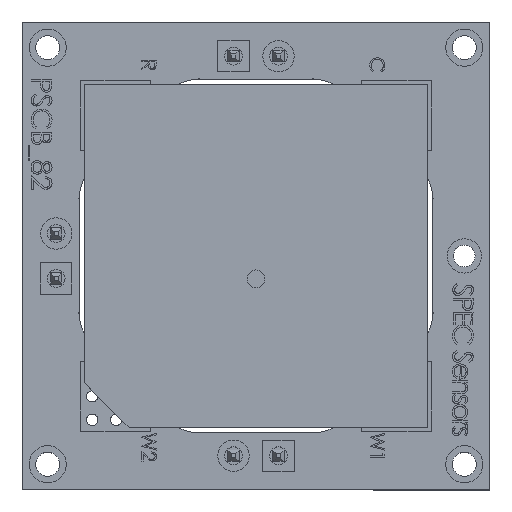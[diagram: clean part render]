
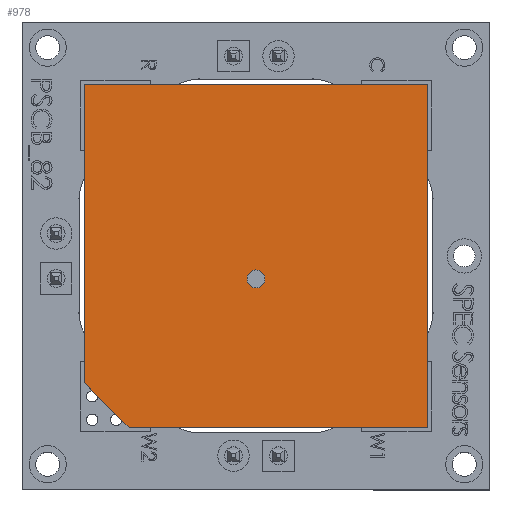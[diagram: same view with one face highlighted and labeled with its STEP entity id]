
A CAD part, top view. The second image highlights one B-rep face of the part: STEP entity #978.
In plain terms, the highlighted planar face has unit normal (0, 0, 1).
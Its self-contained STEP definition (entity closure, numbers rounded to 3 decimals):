
#947 = EDGE_CURVE ( 'NONE', #32696, #11058, #18214, .T. ) ;
#978 = ADVANCED_FACE ( 'NONE', ( #2992, #9971 ), #28093, .T. ) ;
#1032 = VECTOR ( 'NONE', #8167, 1000. ) ;
#1790 = VERTEX_POINT ( 'NONE', #3186 ) ;
#2397 = DIRECTION ( 'NONE',  ( 0.707, -0.707, 0. ) ) ;
#2561 = DIRECTION ( 'NONE',  ( 1., 0., 0. ) ) ;
#2824 = CARTESIAN_POINT ( 'NONE',  ( -18.012, 7.089, 1.369 ) ) ;
#2992 = FACE_BOUND ( 'NONE', #5793, .T. ) ;
#3186 = CARTESIAN_POINT ( 'NONE',  ( -4.712, 7.089, 1.369 ) ) ;
#3378 = CARTESIAN_POINT ( 'NONE',  ( -20.012, 22.389, 1.369 ) ) ;
#4208 = CARTESIAN_POINT ( 'NONE',  ( -20.012, 22.389, 1.369 ) ) ;
#5338 = CARTESIAN_POINT ( 'NONE',  ( -18.012, 7.089, 1.369 ) ) ;
#5408 = CARTESIAN_POINT ( 'NONE',  ( -20.012, 9.089, 1.369 ) ) ;
#5793 = EDGE_LOOP ( 'NONE', ( #30118 ) ) ;
#5950 = CARTESIAN_POINT ( 'NONE',  ( -12.362, 13.714, 1.369 ) ) ;
#6492 = AXIS2_PLACEMENT_3D ( 'NONE', #5950, #22561, #33194 ) ;
#6925 = CARTESIAN_POINT ( 'NONE',  ( -20.012, 9.089, 1.369 ) ) ;
#7568 = LINE ( 'NONE', #22296, #1032 ) ;
#8167 = DIRECTION ( 'NONE',  ( 0., 1., 0. ) ) ;
#9096 = DIRECTION ( 'NONE',  ( 0., 0., 1. ) ) ;
#9971 = FACE_OUTER_BOUND ( 'NONE', #11766, .T. ) ;
#10316 = LINE ( 'NONE', #5408, #18081 ) ;
#10317 = EDGE_CURVE ( 'NONE', #12115, #1790, #34449, .T. ) ;
#10964 = ORIENTED_EDGE ( 'NONE', *, *, #21551, .T. ) ;
#11058 = VERTEX_POINT ( 'NONE', #6925 ) ;
#11616 = CIRCLE ( 'NONE', #6492, 0.4 ) ;
#11766 = EDGE_LOOP ( 'NONE', ( #26165, #34381, #28304, #10964, #33788 ) ) ;
#11768 = DIRECTION ( 'NONE',  ( 1., 0., 0. ) ) ;
#12115 = VERTEX_POINT ( 'NONE', #2824 ) ;
#14593 = VERTEX_POINT ( 'NONE', #30144 ) ;
#15769 = AXIS2_PLACEMENT_3D ( 'NONE', #30923, #9096, #11768 ) ;
#16790 = VERTEX_POINT ( 'NONE', #22308 ) ;
#18081 = VECTOR ( 'NONE', #2397, 1000. ) ;
#18214 = LINE ( 'NONE', #3378, #19472 ) ;
#19197 = VECTOR ( 'NONE', #2561, 1000. ) ;
#19472 = VECTOR ( 'NONE', #25548, 1000. ) ;
#21551 = EDGE_CURVE ( 'NONE', #11058, #12115, #10316, .T. ) ;
#22296 = CARTESIAN_POINT ( 'NONE',  ( -4.712, 22.389, 1.369 ) ) ;
#22308 = CARTESIAN_POINT ( 'NONE',  ( -4.712, 22.389, 1.369 ) ) ;
#22561 = DIRECTION ( 'NONE',  ( 0., 0., 1. ) ) ;
#22634 = CARTESIAN_POINT ( 'NONE',  ( -20.012, 22.389, 1.369 ) ) ;
#23501 = DIRECTION ( 'NONE',  ( -1., 0., 0. ) ) ;
#25548 = DIRECTION ( 'NONE',  ( 0., -1., 0. ) ) ;
#26165 = ORIENTED_EDGE ( 'NONE', *, *, #28327, .T. ) ;
#26807 = EDGE_CURVE ( 'NONE', #14593, #14593, #11616, .T. ) ;
#28093 = PLANE ( 'NONE',  #15769 ) ;
#28304 = ORIENTED_EDGE ( 'NONE', *, *, #947, .T. ) ;
#28327 = EDGE_CURVE ( 'NONE', #1790, #16790, #7568, .T. ) ;
#30118 = ORIENTED_EDGE ( 'NONE', *, *, #26807, .F. ) ;
#30144 = CARTESIAN_POINT ( 'NONE',  ( -11.962, 13.714, 1.369 ) ) ;
#30923 = CARTESIAN_POINT ( 'NONE',  ( 0., 0., 1.369 ) ) ;
#32641 = VECTOR ( 'NONE', #23501, 1000. ) ;
#32696 = VERTEX_POINT ( 'NONE', #22634 ) ;
#32916 = EDGE_CURVE ( 'NONE', #16790, #32696, #33963, .T. ) ;
#33194 = DIRECTION ( 'NONE',  ( 1., 0., 0. ) ) ;
#33788 = ORIENTED_EDGE ( 'NONE', *, *, #10317, .T. ) ;
#33963 = LINE ( 'NONE', #4208, #32641 ) ;
#34381 = ORIENTED_EDGE ( 'NONE', *, *, #32916, .T. ) ;
#34449 = LINE ( 'NONE', #5338, #19197 ) ;
